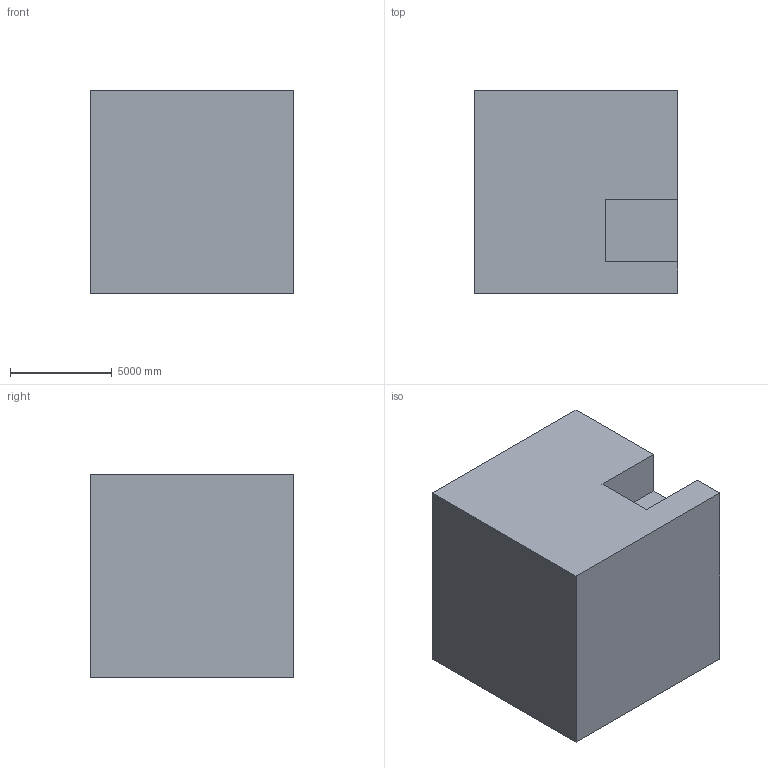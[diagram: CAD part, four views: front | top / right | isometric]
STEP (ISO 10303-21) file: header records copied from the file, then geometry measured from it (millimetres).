
FILE_DESCRIPTION (( 'STEP AP203' ), '1' );
FILE_NAME ('142.STEP', '2022-07-28T13:43:27', ( 'user' ), ( '' ), 'SwSTEP 2.0', 'SolidWorks 2021', '' );
FILE_SCHEMA (( 'CONFIG_CONTROL_DESIGN' ));
Length unit declared in the file: centimetre
Products named in the file (1): 142
Bounding box: 10000 x 10000 x 10000 mm (x, y, z)
Volume: 965090692763.3 mm3; surface area: 635023100.6 mm2
Topology: 1 solids, 1 shells, 13 faces, 30 edges, 20 vertices
Faces by surface type: plane 11, cylinder 2
Entity records: 445 total; most frequent: CARTESIAN_POINT 64, DIRECTION 62, ORIENTED_EDGE 60, EDGE_CURVE 30, VECTOR 26, LINE 26, VERTEX_POINT 20, AXIS2_PLACEMENT_3D 18
